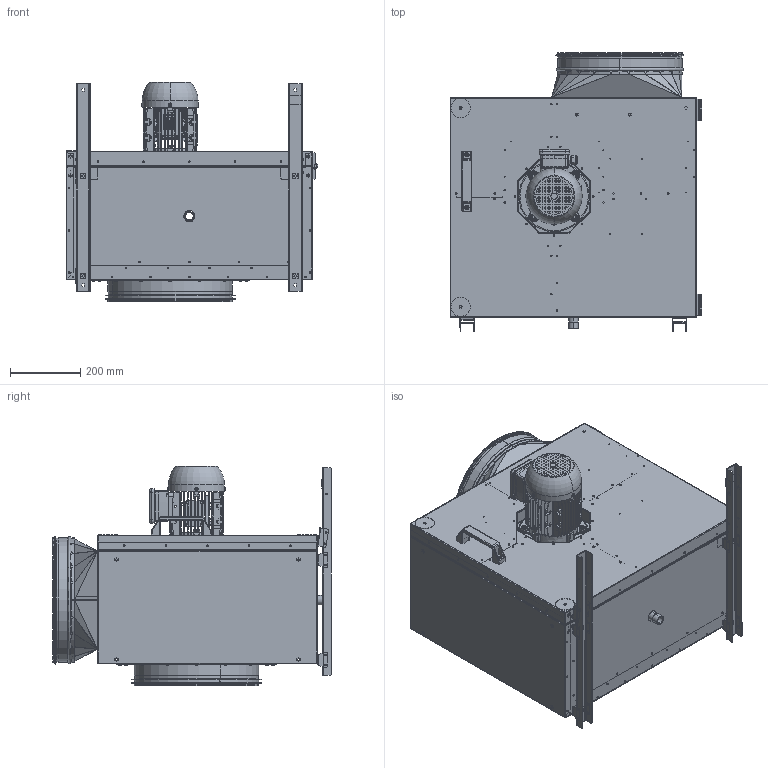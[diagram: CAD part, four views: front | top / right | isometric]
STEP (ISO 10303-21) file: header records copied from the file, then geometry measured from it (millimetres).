
FILE_DESCRIPTION (( 'STEP AP203' ), '1' );
FILE_NAME ('145845-00_MPS315D4F430_step.step', '2018-10-10T06:28:39', ( '' ), ( '' ), 'SwSTEP 2.0', 'SolidWorks 2017', '' );
FILE_SCHEMA (( 'CONFIG_CONTROL_DESIGN' ));
Products named in the file (1): 145845-00_MPS315D4F430_step
Bounding box: 715.37 x 790.34 x 624.4 mm (x, y, z)
Surface area: 7509034.3 mm2 (no closed solid volume)
Topology: 0 solids, 234 shells, 2603 faces, 11705 edges, 8990 vertices
Faces by surface type: plane 1454, cylinder 846, torus 112, bspline 100, cone 91
Entity records: 127600 total; most frequent: CARTESIAN_POINT 35310, DIRECTION 18532, ORIENTED_EDGE 16185, EDGE_CURVE 11704, VERTEX_POINT 8990, VECTOR 7018, LINE 7018, AXIS2_PLACEMENT_3D 5757
